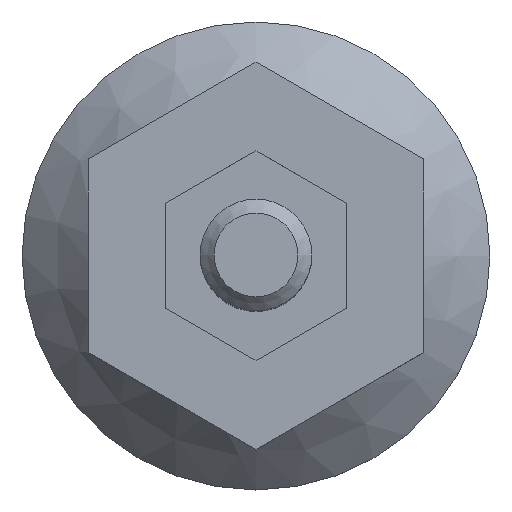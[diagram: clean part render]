
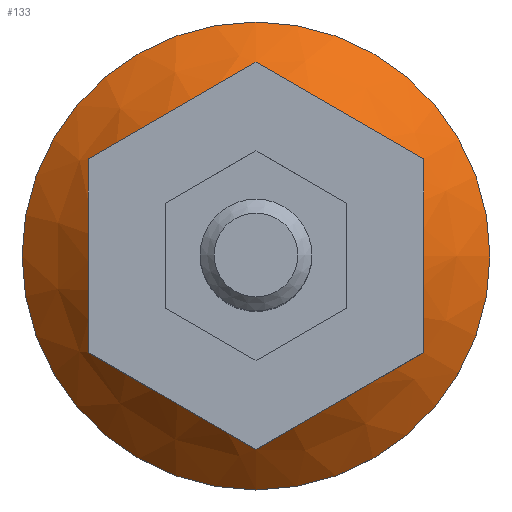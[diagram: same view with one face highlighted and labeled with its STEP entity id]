
A CAD part, top view. The second image highlights one B-rep face of the part: STEP entity #133.
In plain terms, the highlighted conical face has half-angle 45 degrees and reference radius 11.75 mm.
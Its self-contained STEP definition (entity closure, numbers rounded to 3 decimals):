
#27=CARTESIAN_POINT('',(16.75,0.,2.));
#28=VERTEX_POINT('',#27);
#35=CARTESIAN_POINT('',(0.,0.,2.));
#36=DIRECTION('',(1.,0.,-0.));
#37=DIRECTION('',(0.,-0.,1.));
#38=AXIS2_PLACEMENT_3D('',#35,#37,#36);
#39=CIRCLE('',#38,16.75);
#40=EDGE_CURVE('',#28,#28,#39,.T.);
#62=CARTESIAN_POINT('',(0.,0.,7.));
#63=DIRECTION('',(1.,0.,0.));
#64=DIRECTION('',(0.,0.,-1.));
#65=AXIS2_PLACEMENT_3D('',#62,#64,#63);
#66=CONICAL_SURFACE('',#65,11.75,0.785);
#67=CARTESIAN_POINT('',(12.,0.,6.75));
#68=VERTEX_POINT('',#67);
#69=CARTESIAN_POINT('',(16.75,0.,2.));
#70=DIRECTION('',(-0.707,0.,0.707));
#71=VECTOR('',#70,6.718);
#72=LINE('',#69,#71);
#73=EDGE_CURVE('',#28,#68,#72,.T.);
#74=ORIENTED_EDGE('E2',*,*,#73,.T.);
#75=CARTESIAN_POINT('',(12.,6.928,4.894));
#76=VERTEX_POINT('',#75);
#77=CARTESIAN_POINT('',(12.,0.,6.75));
#78=CARTESIAN_POINT('',(12.,3.215,6.75));
#79=CARTESIAN_POINT('',(12.,6.928,4.894));
#80=(BOUNDED_CURVE()B_SPLINE_CURVE(2,(#77,#78,#79),.HYPERBOLIC_ARC.,.F.,.U.)B_SPLINE_CURVE_WITH_KNOTS((3,3),(0.,1.),.UNSPECIFIED.)CURVE()GEOMETRIC_REPRESENTATION_ITEM()RATIONAL_B_SPLINE_CURVE((1.198,1.198,1.112))REPRESENTATION_ITEM(''));
#81=EDGE_CURVE('',#68,#76,#80,.T.);
#82=ORIENTED_EDGE('E23',*,*,#81,.T.);
#83=CARTESIAN_POINT('',(0.,13.856,4.894));
#84=VERTEX_POINT('',#83);
#85=CARTESIAN_POINT('',(12.,6.928,4.894));
#86=CARTESIAN_POINT('',(6.,10.392,8.358));
#87=CARTESIAN_POINT('',(0.,13.856,4.894));
#88=(BOUNDED_CURVE()B_SPLINE_CURVE(2,(#85,#86,#87),.HYPERBOLIC_ARC.,.F.,.U.)B_SPLINE_CURVE_WITH_KNOTS((3,3),(0.,1.),.UNSPECIFIED.)CURVE()GEOMETRIC_REPRESENTATION_ITEM()RATIONAL_B_SPLINE_CURVE((1.112,1.284,1.112))REPRESENTATION_ITEM(''));
#89=EDGE_CURVE('',#76,#84,#88,.T.);
#90=ORIENTED_EDGE('E21',*,*,#89,.T.);
#91=CARTESIAN_POINT('',(-12.,6.928,4.894));
#92=VERTEX_POINT('',#91);
#93=CARTESIAN_POINT('',(0.,13.856,4.894));
#94=CARTESIAN_POINT('',(-6.,10.392,8.358));
#95=CARTESIAN_POINT('',(-12.,6.928,4.894));
#96=(BOUNDED_CURVE()B_SPLINE_CURVE(2,(#93,#94,#95),.HYPERBOLIC_ARC.,.F.,.U.)B_SPLINE_CURVE_WITH_KNOTS((3,3),(0.,1.),.UNSPECIFIED.)CURVE()GEOMETRIC_REPRESENTATION_ITEM()RATIONAL_B_SPLINE_CURVE((1.112,1.284,1.112))REPRESENTATION_ITEM(''));
#97=EDGE_CURVE('',#84,#92,#96,.T.);
#98=ORIENTED_EDGE('E20',*,*,#97,.T.);
#99=CARTESIAN_POINT('',(-12.,-6.928,4.894));
#100=VERTEX_POINT('',#99);
#101=CARTESIAN_POINT('',(-12.,6.928,4.894));
#102=CARTESIAN_POINT('',(-12.,0.,8.358));
#103=CARTESIAN_POINT('',(-12.,-6.928,4.894));
#104=(BOUNDED_CURVE()B_SPLINE_CURVE(2,(#101,#102,#103),.HYPERBOLIC_ARC.,.F.,.U.)B_SPLINE_CURVE_WITH_KNOTS((3,3),(0.,1.),.UNSPECIFIED.)CURVE()GEOMETRIC_REPRESENTATION_ITEM()RATIONAL_B_SPLINE_CURVE((1.112,1.284,1.112))REPRESENTATION_ITEM(''));
#105=EDGE_CURVE('',#92,#100,#104,.T.);
#106=ORIENTED_EDGE('E19',*,*,#105,.T.);
#107=CARTESIAN_POINT('',(0.,-13.856,4.894));
#108=VERTEX_POINT('',#107);
#109=CARTESIAN_POINT('',(-12.,-6.928,4.894));
#110=CARTESIAN_POINT('',(-6.,-10.392,8.358));
#111=CARTESIAN_POINT('',(0.,-13.856,4.894));
#112=(BOUNDED_CURVE()B_SPLINE_CURVE(2,(#109,#110,#111),.HYPERBOLIC_ARC.,.F.,.U.)B_SPLINE_CURVE_WITH_KNOTS((3,3),(0.,1.),.UNSPECIFIED.)CURVE()GEOMETRIC_REPRESENTATION_ITEM()RATIONAL_B_SPLINE_CURVE((1.112,1.284,1.112))REPRESENTATION_ITEM(''));
#113=EDGE_CURVE('',#100,#108,#112,.T.);
#114=ORIENTED_EDGE('E18',*,*,#113,.T.);
#115=CARTESIAN_POINT('',(12.,-6.928,4.894));
#116=VERTEX_POINT('',#115);
#117=CARTESIAN_POINT('',(0.,-13.856,4.894));
#118=CARTESIAN_POINT('',(6.,-10.392,8.358));
#119=CARTESIAN_POINT('',(12.,-6.928,4.894));
#120=(BOUNDED_CURVE()B_SPLINE_CURVE(2,(#117,#118,#119),.HYPERBOLIC_ARC.,.F.,.U.)B_SPLINE_CURVE_WITH_KNOTS((3,3),(0.,1.),.UNSPECIFIED.)CURVE()GEOMETRIC_REPRESENTATION_ITEM()RATIONAL_B_SPLINE_CURVE((1.112,1.284,1.112))REPRESENTATION_ITEM(''));
#121=EDGE_CURVE('',#108,#116,#120,.T.);
#122=ORIENTED_EDGE('E24',*,*,#121,.T.);
#123=CARTESIAN_POINT('',(12.,-6.928,4.894));
#124=CARTESIAN_POINT('',(12.,-3.215,6.75));
#125=CARTESIAN_POINT('',(12.,0.,6.75));
#126=(BOUNDED_CURVE()B_SPLINE_CURVE(2,(#123,#124,#125),.HYPERBOLIC_ARC.,.F.,.U.)B_SPLINE_CURVE_WITH_KNOTS((3,3),(0.,1.),.UNSPECIFIED.)CURVE()GEOMETRIC_REPRESENTATION_ITEM()RATIONAL_B_SPLINE_CURVE((1.112,1.198,1.198))REPRESENTATION_ITEM(''));
#127=EDGE_CURVE('',#116,#68,#126,.T.);
#128=ORIENTED_EDGE('E22',*,*,#127,.T.);
#129=ORIENTED_EDGE('E22',*,*,#73,.F.);
#130=ORIENTED_EDGE('E22',*,*,#40,.F.);
#131=EDGE_LOOP('',(#74,#82,#90,#98,#106,#114,#122,#128,#129,#130));
#132=FACE_OUTER_BOUND('',#131,.F.);
#133=ADVANCED_FACE('F3',(#132),#66,.T.);
